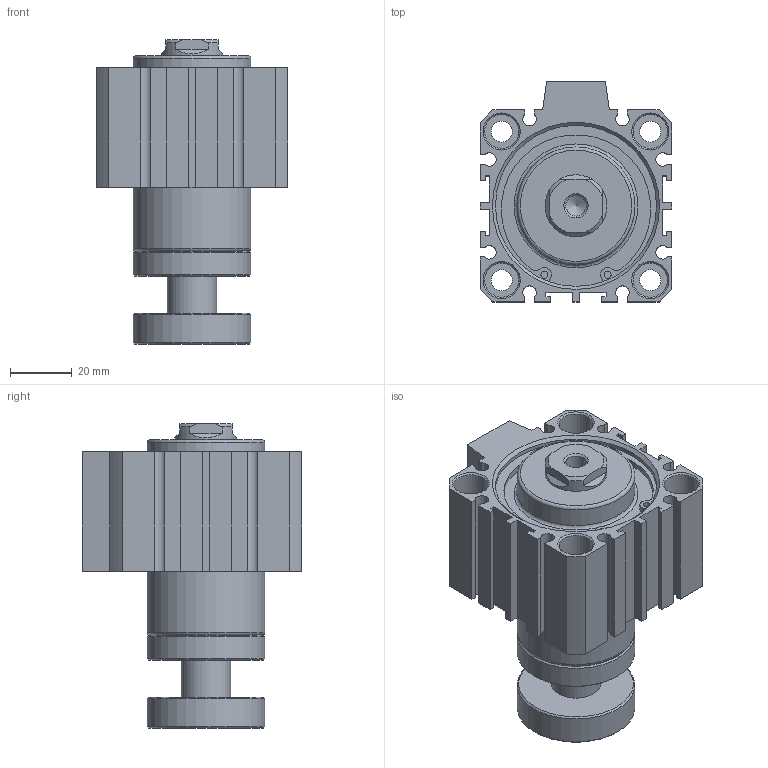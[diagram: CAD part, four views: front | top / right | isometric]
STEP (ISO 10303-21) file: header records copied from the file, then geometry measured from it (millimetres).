
FILE_DESCRIPTION((''),'2;1');
FILE_NAME('I:\3D電子目錄\氣缸\JDAR\JDAR\JDAR50\JDAR50x10.stp','2007-03-14T10:53:47',('662F206'),(''),'Autodesk Inventor 11','Autodesk Inventor 11','');
FILE_SCHEMA(('AUTOMOTIVE_DESIGN { 1 0 10303 214 1 1 1 1 }'));
Length unit declared in the file: millimetre
Products named in the file (3): JDAR50; R 形環 52
Assembly tree (3 placements, depth 2):
  JDAR50
    JDAR50
    R 形環 52  x2
Bounding box: 62 x 71 x 98.3 mm (x, y, z)
Volume: 174602.3 mm3; surface area: 42026.7 mm2
Topology: 3 solids, 3 shells, 193 faces, 472 edges, 309 vertices
Faces by surface type: plane 110, cylinder 54, cone 23, bspline 4, torus 2
Full cylindrical faces by diameter (mm): 2.3 x4, 2.7 x2, 6.8 x4, 11 x8, 16 x1, 20 x1, 38 x4, 52 x4, 55 x2
Entity records: 5195 total; most frequent: CARTESIAN_POINT 989, DIRECTION 870, ORIENTED_EDGE 764, EDGE_CURVE 382, AXIS2_PLACEMENT_3D 313, VERTEX_POINT 282, EDGE_LOOP 270, VECTOR 244
